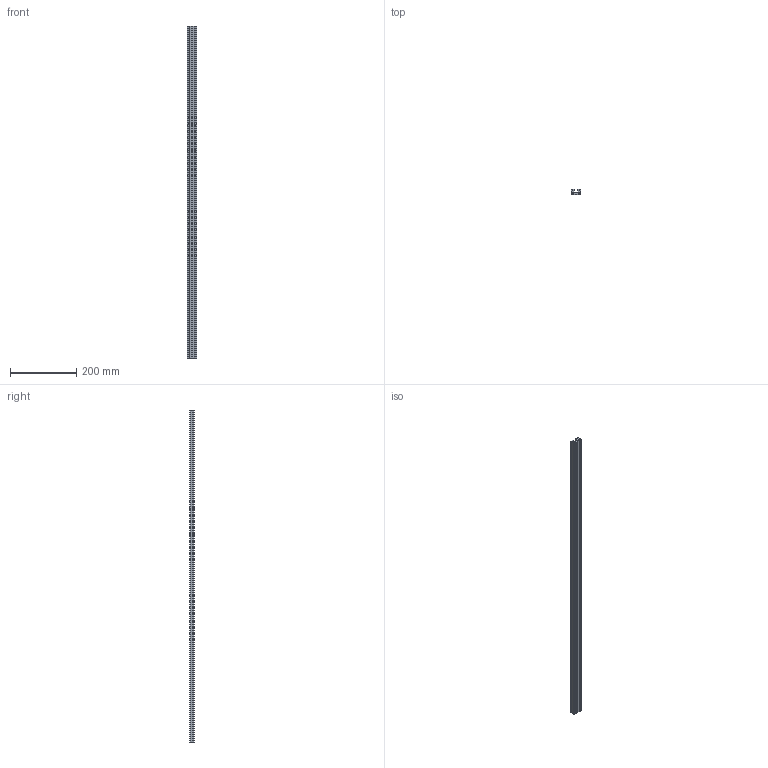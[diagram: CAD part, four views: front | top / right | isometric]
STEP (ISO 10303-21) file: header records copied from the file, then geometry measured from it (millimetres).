
FILE_DESCRIPTION (( 'STEP AP214' ), '1' );
FILE_NAME ('15x30 t-track ðàçîìêíóòàÿ - âåðíàÿ.STEP', '2019-01-24T06:54:29', ( '' ), ( '' ), 'SwSTEP 2.0', 'SolidWorks 2014', '' );
FILE_SCHEMA (( 'AUTOMOTIVE_DESIGN' ));
Length unit declared in the file: millimetre
Products named in the file (2): 15x30 t-track ðàçîìêíóòàÿ - âåðíàÿ
Bounding box: 30 x 15 x 1000 mm (x, y, z)
Volume: 264123.8 mm3; surface area: 151664.7 mm2
Topology: 1 solids, 1 shells, 63 faces, 183 edges, 122 vertices
Faces by surface type: plane 38, cylinder 25
Entity records: 2136 total; most frequent: CARTESIAN_POINT 370, ORIENTED_EDGE 366, DIRECTION 363, EDGE_CURVE 183, LINE 133, VECTOR 133, VERTEX_POINT 122, AXIS2_PLACEMENT_3D 115
